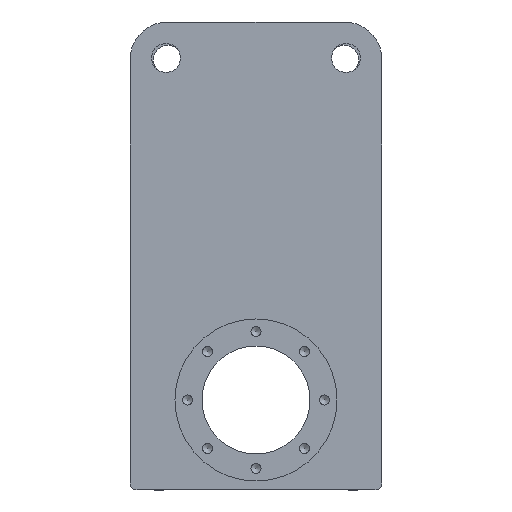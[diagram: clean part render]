
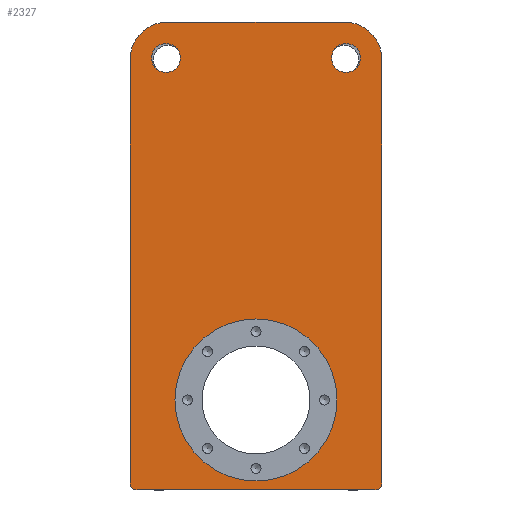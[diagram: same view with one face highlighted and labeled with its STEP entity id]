
A CAD part, left-side view. The second image highlights one B-rep face of the part: STEP entity #2327.
In plain terms, the highlighted planar face has unit normal (-1, 0, 0).
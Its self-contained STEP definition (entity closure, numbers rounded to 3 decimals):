
#1947=CARTESIAN_POINT('',(-53.491,257.596,256.587));
#1948=VERTEX_POINT('',#1947);
#1949=CARTESIAN_POINT('',(-53.491,12.596,256.587));
#1950=VERTEX_POINT('',#1949);
#1951=CARTESIAN_POINT('',(-53.491,-39.904,256.587));
#1952=DIRECTION('',(0.0,-1.0,0.0));
#1953=VECTOR('',#1952,1.0);
#1954=LINE('',#1951,#1953);
#1955=EDGE_CURVE('',#1948,#1950,#1954,.T.);
#1987=CARTESIAN_POINT('',(-53.491,-39.904,204.087));
#1988=VERTEX_POINT('',#1987);
#1989=CARTESIAN_POINT('',(-53.491,-39.904,-383.413));
#1990=VERTEX_POINT('',#1989);
#1991=CARTESIAN_POINT('',(-53.491,-39.904,256.587));
#1992=DIRECTION('',(0.0,0.0,-1.0));
#1993=VECTOR('',#1992,1.0);
#1994=LINE('',#1991,#1993);
#1995=EDGE_CURVE('',#1988,#1990,#1994,.T.);
#2037=CARTESIAN_POINT('',(-53.491,-29.904,-393.413));
#2038=VERTEX_POINT('',#2037);
#2045=CARTESIAN_POINT('',(-53.491,300.096,-393.413));
#2046=VERTEX_POINT('',#2045);
#2047=CARTESIAN_POINT('',(-53.491,-39.904,-393.413));
#2048=DIRECTION('',(0.0,1.0,0.0));
#2049=VECTOR('',#2048,1.0);
#2050=LINE('',#2047,#2049);
#2051=EDGE_CURVE('',#2038,#2046,#2050,.T.);
#2077=CARTESIAN_POINT('',(-53.491,310.096,-383.413));
#2078=VERTEX_POINT('',#2077);
#2085=CARTESIAN_POINT('',(-53.491,310.096,204.087));
#2086=VERTEX_POINT('',#2085);
#2087=CARTESIAN_POINT('',(-53.491,310.096,256.587));
#2088=DIRECTION('',(0.0,0.0,1.0));
#2089=VECTOR('',#2088,1.0);
#2090=LINE('',#2087,#2089);
#2091=EDGE_CURVE('',#2078,#2086,#2090,.T.);
#2255=CARTESIAN_POINT('',(-53.491,-39.904,256.587));
#2256=DIRECTION('',(-1.0,0.0,0.0));
#2257=DIRECTION('',(0.0,0.0,1.0));
#2258=AXIS2_PLACEMENT_3D('',#2255,#2256,#2257);
#2259=PLANE('',#2258);
#2260=ORIENTED_EDGE('',*,*,#2051,.F.);
#2261=CARTESIAN_POINT('',(-53.491,-29.904,-383.413));
#2262=DIRECTION('',(-1.0,0.0,0.0));
#2263=DIRECTION('',(0.0,0.0,1.0));
#2264=AXIS2_PLACEMENT_3D('',#2261,#2262,#2263);
#2265=CIRCLE('',#2264,10.0);
#2266=EDGE_CURVE('',#2038,#1990,#2265,.T.);
#2267=ORIENTED_EDGE('',*,*,#2266,.T.);
#2268=ORIENTED_EDGE('',*,*,#1995,.F.);
#2269=CARTESIAN_POINT('',(-53.491,12.596,204.087));
#2270=DIRECTION('',(-1.0,0.0,0.0));
#2271=DIRECTION('',(0.0,0.0,1.0));
#2272=AXIS2_PLACEMENT_3D('',#2269,#2270,#2271);
#2273=CIRCLE('',#2272,52.5);
#2274=EDGE_CURVE('',#1988,#1950,#2273,.T.);
#2275=ORIENTED_EDGE('',*,*,#2274,.T.);
#2276=ORIENTED_EDGE('',*,*,#1955,.F.);
#2277=CARTESIAN_POINT('',(-53.491,257.596,204.087));
#2278=DIRECTION('',(-1.0,0.0,0.0));
#2279=DIRECTION('',(0.0,0.0,1.0));
#2280=AXIS2_PLACEMENT_3D('',#2277,#2278,#2279);
#2281=CIRCLE('',#2280,52.5);
#2282=EDGE_CURVE('',#1948,#2086,#2281,.T.);
#2283=ORIENTED_EDGE('',*,*,#2282,.T.);
#2284=ORIENTED_EDGE('',*,*,#2091,.F.);
#2285=CARTESIAN_POINT('',(-53.491,300.096,-383.413));
#2286=DIRECTION('',(-1.0,0.0,0.0));
#2287=DIRECTION('',(0.0,0.0,1.0));
#2288=AXIS2_PLACEMENT_3D('',#2285,#2286,#2287);
#2289=CIRCLE('',#2288,10.0);
#2290=EDGE_CURVE('',#2078,#2046,#2289,.T.);
#2291=ORIENTED_EDGE('',*,*,#2290,.T.);
#2292=EDGE_LOOP('',(#2260,#2267,#2268,#2275,#2276,#2283,#2284,#2291));
#2293=FACE_OUTER_BOUND('',#2292,.T.);
#2294=CARTESIAN_POINT('',(-53.491,135.096,-155.913));
#2295=VERTEX_POINT('',#2294);
#2296=CARTESIAN_POINT('',(-53.491,135.096,-268.413));
#2297=DIRECTION('',(-1.0,0.0,0.0));
#2298=DIRECTION('',(0.0,0.0,1.0));
#2299=AXIS2_PLACEMENT_3D('',#2296,#2297,#2298);
#2300=CIRCLE('',#2299,112.5);
#2301=EDGE_CURVE('',#2295,#2295,#2300,.T.);
#2302=ORIENTED_EDGE('',*,*,#2301,.F.);
#2303=EDGE_LOOP('',(#2302));
#2304=FACE_BOUND('',#2303,.T.);
#2305=CARTESIAN_POINT('',(-53.491,10.096,186.587));
#2306=VERTEX_POINT('',#2305);
#2307=CARTESIAN_POINT('',(-53.491,10.096,206.587));
#2308=DIRECTION('',(1.0,0.0,0.0));
#2309=DIRECTION('',(0.0,0.0,-1.0));
#2310=AXIS2_PLACEMENT_3D('',#2307,#2308,#2309);
#2311=CIRCLE('',#2310,20.0);
#2312=EDGE_CURVE('',#2306,#2306,#2311,.T.);
#2313=ORIENTED_EDGE('',*,*,#2312,.T.);
#2314=EDGE_LOOP('',(#2313));
#2315=FACE_BOUND('',#2314,.T.);
#2316=CARTESIAN_POINT('',(-53.491,260.096,186.587));
#2317=VERTEX_POINT('',#2316);
#2318=CARTESIAN_POINT('',(-53.491,260.096,206.587));
#2319=DIRECTION('',(1.0,0.0,0.0));
#2320=DIRECTION('',(0.0,0.0,-1.0));
#2321=AXIS2_PLACEMENT_3D('',#2318,#2319,#2320);
#2322=CIRCLE('',#2321,20.0);
#2323=EDGE_CURVE('',#2317,#2317,#2322,.T.);
#2324=ORIENTED_EDGE('',*,*,#2323,.T.);
#2325=EDGE_LOOP('',(#2324));
#2326=FACE_BOUND('',#2325,.T.);
#2327=ADVANCED_FACE('',(#2293,#2304,#2315,#2326),#2259,.T.);
